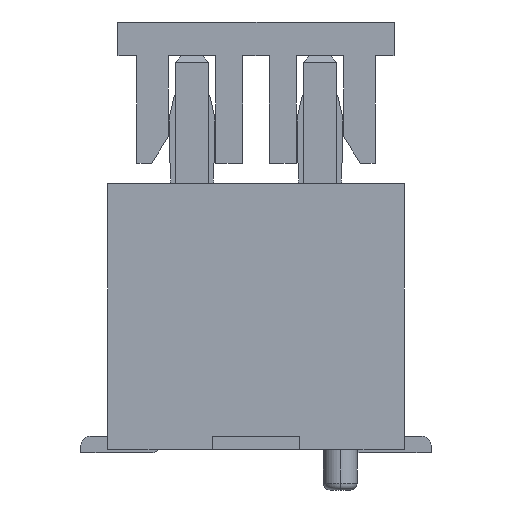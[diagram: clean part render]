
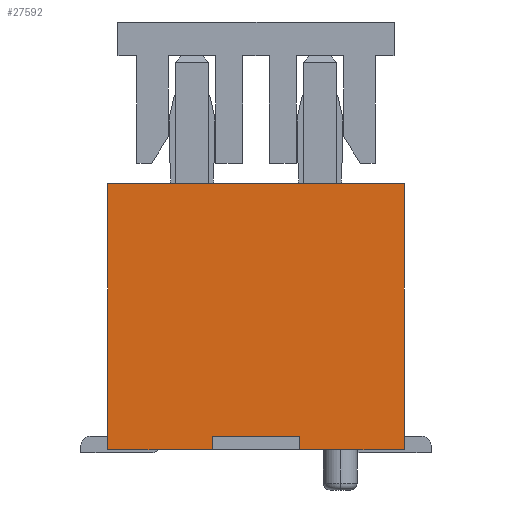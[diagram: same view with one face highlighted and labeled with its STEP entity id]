
A CAD part, left-side view. The second image highlights one B-rep face of the part: STEP entity #27592.
In plain terms, the highlighted planar face has unit normal (-1, 0, 0).
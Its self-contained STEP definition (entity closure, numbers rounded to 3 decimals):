
#430 = EDGE_CURVE ( 'NONE', #20567, #19005, #39995, .T. ) ;
#956 = ORIENTED_EDGE ( 'NONE', *, *, #38644, .F. ) ;
#1928 = CARTESIAN_POINT ( 'NONE',  ( -4.95, -2.2, 3.95 ) ) ;
#2324 = DIRECTION ( 'NONE',  ( 0., 1., 0. ) ) ;
#3382 = DIRECTION ( 'NONE',  ( 0., 1., 0. ) ) ;
#3875 = DIRECTION ( 'NONE',  ( 0., -1., 0. ) ) ;
#4673 = DIRECTION ( 'NONE',  ( 0., 0., 1. ) ) ;
#4883 = DIRECTION ( 'NONE',  ( 0., 1., 0. ) ) ;
#5068 = VECTOR ( 'NONE', #3382, 1000. ) ;
#5814 = CARTESIAN_POINT ( 'NONE',  ( -4.95, 0.65, 0.2 ) ) ;
#5858 = ORIENTED_EDGE ( 'NONE', *, *, #38794, .F. ) ;
#7581 = VERTEX_POINT ( 'NONE', #7707 ) ;
#7707 = CARTESIAN_POINT ( 'NONE',  ( -4.95, -2.2, 0. ) ) ;
#8084 = ORIENTED_EDGE ( 'NONE', *, *, #46307, .F. ) ;
#8303 = VERTEX_POINT ( 'NONE', #16030 ) ;
#8985 = ORIENTED_EDGE ( 'NONE', *, *, #430, .F. ) ;
#9616 = LINE ( 'NONE', #25374, #5068 ) ;
#11176 = VECTOR ( 'NONE', #3875, 1000. ) ;
#11318 = DIRECTION ( 'NONE',  ( 1., 0., 0. ) ) ;
#11363 = LINE ( 'NONE', #15984, #11176 ) ;
#13630 = ORIENTED_EDGE ( 'NONE', *, *, #28366, .F. ) ;
#13938 = CARTESIAN_POINT ( 'NONE',  ( -4.95, -0.65, 0. ) ) ;
#15592 = EDGE_CURVE ( 'NONE', #18336, #19005, #20558, .T. ) ;
#15984 = CARTESIAN_POINT ( 'NONE',  ( -4.95, 0., 3.95 ) ) ;
#16030 = CARTESIAN_POINT ( 'NONE',  ( -4.95, 2.2, 0. ) ) ;
#16996 = EDGE_CURVE ( 'NONE', #7581, #29723, #21438, .T. ) ;
#18066 = CARTESIAN_POINT ( 'NONE',  ( -4.95, 0.65, 0. ) ) ;
#18336 = VERTEX_POINT ( 'NONE', #18066 ) ;
#19005 = VERTEX_POINT ( 'NONE', #5814 ) ;
#19546 = DIRECTION ( 'NONE',  ( 0., 0., 1. ) ) ;
#20558 = LINE ( 'NONE', #32443, #26177 ) ;
#20567 = VERTEX_POINT ( 'NONE', #37262 ) ;
#21438 = LINE ( 'NONE', #45197, #36623 ) ;
#23920 = DIRECTION ( 'NONE',  ( 0., 0., 1. ) ) ;
#24290 = LINE ( 'NONE', #24553, #29806 ) ;
#24553 = CARTESIAN_POINT ( 'NONE',  ( -4.95, -0.65, 0.1 ) ) ;
#25374 = CARTESIAN_POINT ( 'NONE',  ( -4.95, 2.1, 0. ) ) ;
#26177 = VECTOR ( 'NONE', #23920, 1000. ) ;
#26740 = VERTEX_POINT ( 'NONE', #40348 ) ;
#26919 = VECTOR ( 'NONE', #19546, 1000. ) ;
#27592 = ADVANCED_FACE ( 'NONE', ( #46961 ), #32942, .F. ) ;
#28366 = EDGE_CURVE ( 'NONE', #42108, #7581, #48044, .T. ) ;
#29723 = VERTEX_POINT ( 'NONE', #13938 ) ;
#29806 = VECTOR ( 'NONE', #4673, 1000. ) ;
#31414 = CARTESIAN_POINT ( 'NONE',  ( -4.95, 2.2, 1.975 ) ) ;
#32375 = VECTOR ( 'NONE', #48304, 1000. ) ;
#32443 = CARTESIAN_POINT ( 'NONE',  ( -4.95, 0.65, 0.1 ) ) ;
#32942 = PLANE ( 'NONE',  #50652 ) ;
#34357 = EDGE_CURVE ( 'NONE', #8303, #26740, #38902, .T. ) ;
#36623 = VECTOR ( 'NONE', #2324, 1000. ) ;
#36743 = ORIENTED_EDGE ( 'NONE', *, *, #15592, .T. ) ;
#37262 = CARTESIAN_POINT ( 'NONE',  ( -4.95, -0.65, 0.2 ) ) ;
#38644 = EDGE_CURVE ( 'NONE', #18336, #8303, #9616, .T. ) ;
#38794 = EDGE_CURVE ( 'NONE', #29723, #20567, #24290, .T. ) ;
#38902 = LINE ( 'NONE', #31414, #26919 ) ;
#39731 = CARTESIAN_POINT ( 'NONE',  ( -4.95, 0., 0.2 ) ) ;
#39995 = LINE ( 'NONE', #39731, #44902 ) ;
#40348 = CARTESIAN_POINT ( 'NONE',  ( -4.95, 2.2, 3.95 ) ) ;
#42108 = VERTEX_POINT ( 'NONE', #1928 ) ;
#42824 = DIRECTION ( 'NONE',  ( 0., 1., 0. ) ) ;
#44028 = CARTESIAN_POINT ( 'NONE',  ( -4.95, 0., 0. ) ) ;
#44173 = CARTESIAN_POINT ( 'NONE',  ( -4.95, -2.2, 1.975 ) ) ;
#44326 = ORIENTED_EDGE ( 'NONE', *, *, #16996, .F. ) ;
#44902 = VECTOR ( 'NONE', #4883, 1000. ) ;
#45197 = CARTESIAN_POINT ( 'NONE',  ( -4.95, -1.325, 0. ) ) ;
#45469 = ORIENTED_EDGE ( 'NONE', *, *, #34357, .F. ) ;
#46307 = EDGE_CURVE ( 'NONE', #26740, #42108, #11363, .T. ) ;
#46961 = FACE_OUTER_BOUND ( 'NONE', #49361, .T. ) ;
#48044 = LINE ( 'NONE', #44173, #32375 ) ;
#48304 = DIRECTION ( 'NONE',  ( 0., 0., -1. ) ) ;
#49361 = EDGE_LOOP ( 'NONE', ( #956, #36743, #8985, #5858, #44326, #13630, #8084, #45469 ) ) ;
#50652 = AXIS2_PLACEMENT_3D ( 'NONE', #44028, #11318, #42824 ) ;
